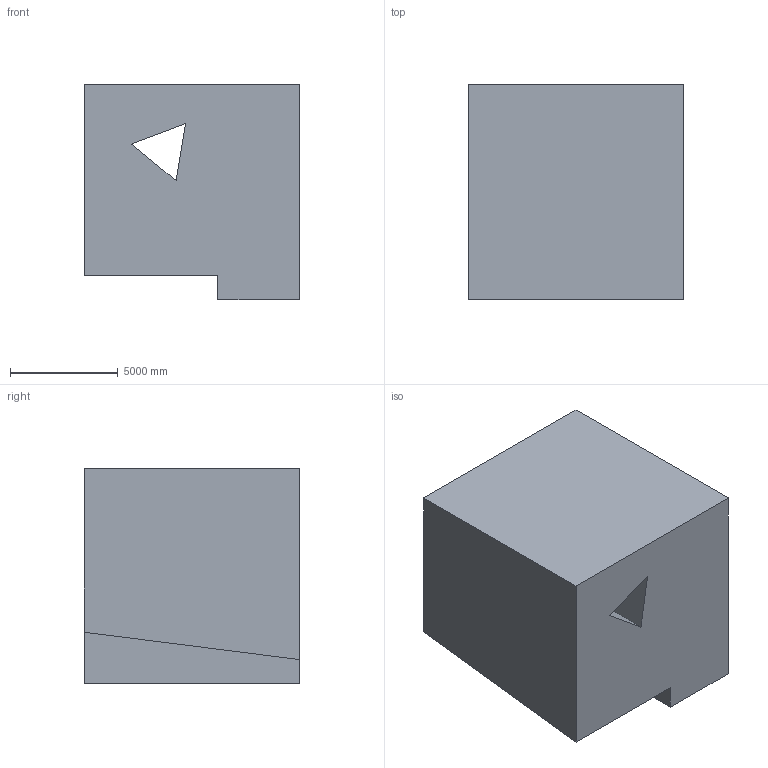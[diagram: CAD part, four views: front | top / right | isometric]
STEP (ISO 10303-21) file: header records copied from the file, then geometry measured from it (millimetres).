
FILE_DESCRIPTION (( 'STEP AP203' ), '1' );
FILE_NAME ('114.STEP', '2022-09-05T15:34:44', ( 'user' ), ( '' ), 'SwSTEP 2.0', 'SolidWorks 2021', '' );
FILE_SCHEMA (( 'CONFIG_CONTROL_DESIGN' ));
Length unit declared in the file: centimetre
Products named in the file (1): 114
Bounding box: 10000 x 10000 x 10000 mm (x, y, z)
Volume: 860010891712.6 mm3; surface area: 653188468.2 mm2
Topology: 1 solids, 1 shells, 11 faces, 27 edges, 18 vertices
Faces by surface type: plane 11
Entity records: 402 total; most frequent: CARTESIAN_POINT 57, ORIENTED_EDGE 54, DIRECTION 51, EDGE_CURVE 27, LINE 27, VECTOR 27, VERTEX_POINT 18, EDGE_LOOP 13
